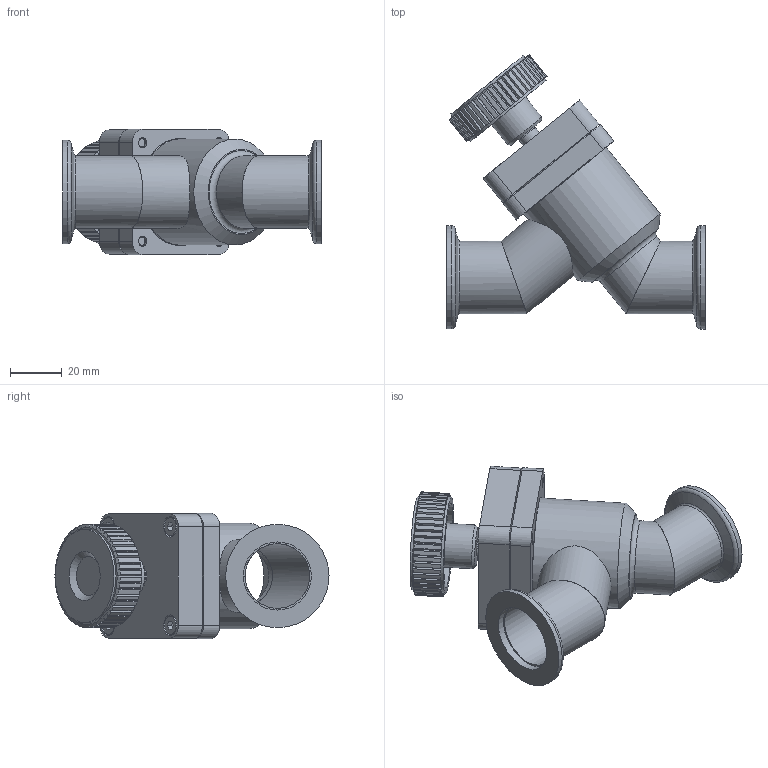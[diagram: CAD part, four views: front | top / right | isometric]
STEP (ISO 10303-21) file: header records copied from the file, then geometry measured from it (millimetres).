
FILE_DESCRIPTION(/* description */ (''),/* implementation_level */ '2;1');
FILE_NAME(/* name */ '1164790706_203.stp',/* time_stamp */ '2013-11-05T12:49:40+01:00',/* author */ (''),/* organization */ (''),/* preprocessor_version */ 'ST-DEVELOPER v11',/* originating_system */ 'SIEMENS PLM Software NX 7.5',/* authorisation */ '');
FILE_SCHEMA (('AP203_CONFIGURATION_CONTROLLED_3D_DESIGN_OF_MECHANICAL_PARTS_AND_ASSEMBLIES_MIM_LF'));
Length unit declared in the file: millimetre
Products named in the file (11): 257238.5; 245689.5; 257237.6; 264931.2; 264932.2; 245912; 224790.1; 244909.4; 244908.8; 264933.4; 715963
Assembly tree (13 placements, depth 3):
  715963
    244908.8
    244909.4
    224790.1  x4
    245912
    264933.4
      264932.2
      264931.2
      257237.6
      245689.5
      257238.5
Bounding box: 99.99 x 105.79 x 48.4 mm (x, y, z)
Volume: 70479 mm3; surface area: 54251 mm2
Topology: 20 solids, 20 shells, 458 faces, 1146 edges, 753 vertices
Faces by surface type: plane 251, cylinder 152, cone 34, torus 17, bspline 4
Full cylindrical faces by diameter (mm): 3.26 x4, 3.3 x4, 4 x14, 4.5 x4, 4.9 x1, 6 x2, 6.04 x1, 6.2 x1, 7 x4, 8 x7, 8.05 x1, 8.2 x1, 10 x1, 17 x1, 25 x5, 26.3 x2, 28 x4, 32.6 x1, 36 x1, 36.5 x1, 37.5 x1, 39.896 x2, 40.9 x1, 41.3 x1, 41.45 x1, 41.85 x1, 44.8 x1
Entity records: 13501 total; most frequent: CARTESIAN_POINT 2702, DIRECTION 1938, ORIENTED_EDGE 1860, EDGE_CURVE 930, AXIS2_PLACEMENT_3D 753, VERTEX_POINT 665, EDGE_LOOP 546, LINE 432
